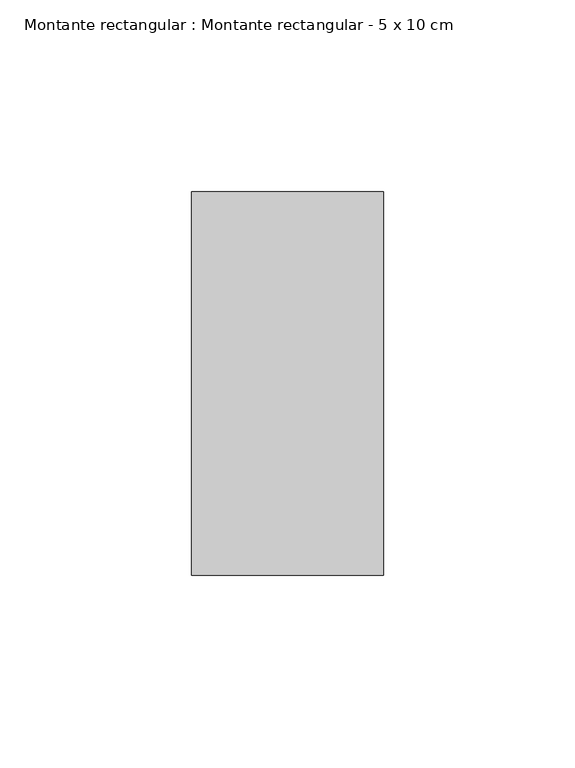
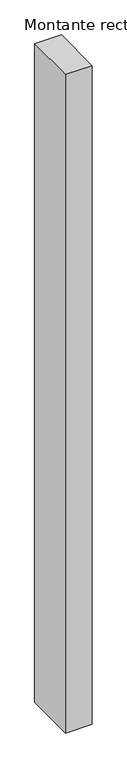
"""IFC4 building model written with IfcOpenShell, lengths in millimetres: member geometry, Montante rectangular : Montante rectangular - 5 x 10 cm."""

from ifc_helpers import new_model, si_unit, frame, origin, place, context, project, spatial, polyline, outline, extrude, source, transform, mapped, element, save


def montante_rectangular_montante_rectangular_5_x_10_cm_def201b9(model_context):
    return source(origin(), model_context, "Body", "SweptSolid", [
        extrude(outline(polyline([(-50.0, 50.0), (0.0, 50.0), (0.0, -50.0), (-50.0, -50.0), (-50.0, 50.0)])), frame((0.0, 0.0, -1305.0), z_axis=(0.0, 0.0, 1.0), x_axis=(1.0, 0.0, 0.0)), (0.0, 0.0, 1.0), 1305.0),
    ])


if __name__ == "__main__":
    model = new_model("IFC4")
    model_context = context("Model", 3, world=origin())
    ifc_project = project(units=[si_unit("LENGTHUNIT", "METRE", prefix="MILLI")], contexts=[model_context])
    site = spatial("IfcSite", under=ifc_project)
    building = spatial("IfcBuilding", under=site)
    placement = place(None, origin())
    montante_rectangular_montante_rectangular_5_x_10_cm_shape = montante_rectangular_montante_rectangular_5_x_10_cm_def201b9(model_context)
    element("IfcMember", 1, ObjectType="Montante rectangular : Montante rectangular - 5 x 10 cm", at=placement, inside=building, context=model_context, shape_type="MappedRepresentation", body=[
        mapped(montante_rectangular_montante_rectangular_5_x_10_cm_shape, transform((0.0, 0.0, 0.0), x_axis=(1.0, 0.0, 0.0), y_axis=(0.0, 1.0, 0.0), z_axis=(0.0, 0.0, 1.0))),
    ])
    save(model, "model.ifc")
